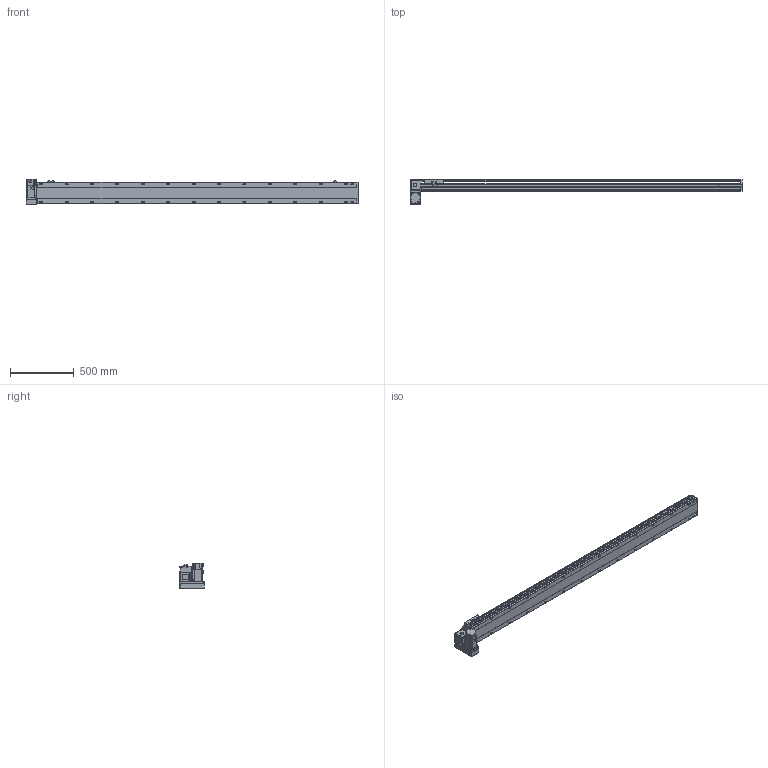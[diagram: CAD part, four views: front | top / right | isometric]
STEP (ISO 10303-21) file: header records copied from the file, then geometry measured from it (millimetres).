
FILE_DESCRIPTION( ( 'STEP AP214' ), '1' );
FILE_NAME( 'x:/temp/worker_4/temp/exporttempdir_2248_356_ombbx/format_0/PBS170-P40-S2250-LD-T75-C1-N(0).stp', '2022-06-07T07:55:12', ( 'License CC BY-ND 4.0' ), ( 'CADENAS' ), ' ', 'PARTsolutions', ' ' );
FILE_SCHEMA( ( 'AUTOMOTIVE_DESIGN { 1 0 10303 214 1 1 1 1 }' ) );
Length unit declared in the file: millimetre
Products named in the file (7): PBS170-P40-S2250-LD-T75-C1-N(0); _PBS170-S2250()_body; _PBS170T-LD_motors; _T75-p1; _PBS170_sliser; _PBS170_plant; _PBS170_sensor
Assembly tree (8 placements, depth 2):
  PBS170-P40-S2250-LD-T75-C1-N(0)
    _PBS170-S2250()_body
    _PBS170T-LD_motors
    _T75-p1
    _PBS170_sliser
    _PBS170_plant
    _PBS170_sensor  x3
Bounding box: 2613 x 201 x 197.3 mm (x, y, z)
Volume: 19894307.2 mm3; surface area: 2515826.5 mm2
Topology: 8 solids, 8 shells, 1178 faces, 3115 edges, 2030 vertices
Faces by surface type: plane 723, cylinder 387, cone 58, sphere 8, torus 2
Full cylindrical faces by diameter (mm): 3.242 x4, 4 x2, 4.4 x4, 4.5 x6, 4.917 x4, 6 x9, 6.647 x36, 7 x2, 7.5 x4, 8 x8, 8.5 x28, 10 x4, 10.5 x28, 11 x2, 30 x2, 40 x1, 70 x1
Entity records: 43592 total; most frequent: CARTESIAN_POINT 7229, DIRECTION 5720, ORIENTED_EDGE 5388, EDGE_CURVE 2694, AXIS2_PLACEMENT_3D 2017, VERTEX_POINT 1874, LINE 1686, VECTOR 1686
